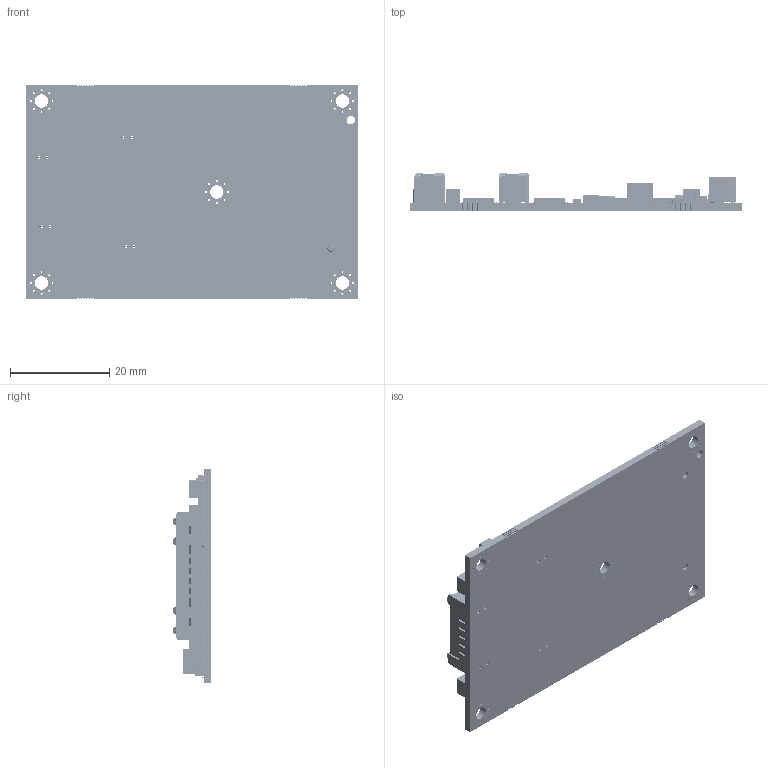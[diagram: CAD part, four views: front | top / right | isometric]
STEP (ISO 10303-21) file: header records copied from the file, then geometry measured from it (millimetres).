
FILE_DESCRIPTION((''),'2;1');
FILE_NAME('EXPORTSTEP_-_783719_-_783720_-_','2024-03-07T12:30:58',('MMAGGUKA'),(''),'CREO PARAMETRIC BY PTC INC, 2022484','CREO PARAMETRIC BY PTC INC, 2022484','');
FILE_SCHEMA(('CONFIG_CONTROL_DESIGN','SHAPE_APPEARANCE_LAYERS_GROUPS'));
Products named in the file (1): EXPORTSTEP_-_783719_-_783720_-_
Bounding box: 67 x 7.73 x 43 mm (x, y, z)
Volume: 6558.5 mm3; surface area: 12726.2 mm2
Topology: 23 solids, 23 shells, 12939 faces, 34485 edges, 20345 vertices
Faces by surface type: plane 6719, cylinder 4499, sphere 1560, extrusion 117, torus 44
Entity records: 408978 total; most frequent: CARTESIAN_POINT 75939, ORIENTED_EDGE 65872, DIRECTION 62652, EDGE_CURVE 32936, VECTOR 23958, LINE 23841, VERTEX_POINT 20345, AXIS2_PLACEMENT_3D 19347
